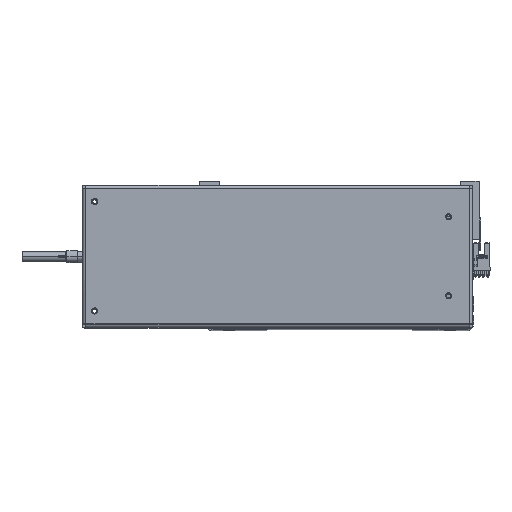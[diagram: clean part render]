
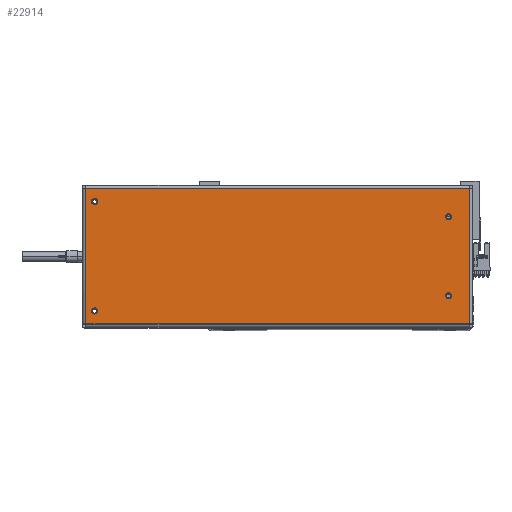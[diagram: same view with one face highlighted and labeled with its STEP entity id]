
A CAD part, top view. The second image highlights one B-rep face of the part: STEP entity #22914.
In plain terms, the highlighted planar face has unit normal (0, 0, 1).
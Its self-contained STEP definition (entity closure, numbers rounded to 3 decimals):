
#1373 = ORIENTED_EDGE ( 'NONE', *, *, #28267, .F. ) ;
#1902 = DIRECTION ( 'NONE',  ( 1., 0., 0. ) ) ;
#2242 = LINE ( 'NONE', #7822, #12563 ) ;
#2607 = FACE_BOUND ( 'NONE', #3863, .T. ) ;
#2660 = EDGE_LOOP ( 'NONE', ( #34235, #8045 ) ) ;
#2981 = ORIENTED_EDGE ( 'NONE', *, *, #25354, .F. ) ;
#3043 = VERTEX_POINT ( 'NONE', #9109 ) ;
#3078 = CIRCLE ( 'NONE', #38673, 2.5 ) ;
#3636 = AXIS2_PLACEMENT_3D ( 'NONE', #31955, #19573, #1902 ) ;
#3863 = EDGE_LOOP ( 'NONE', ( #14085, #23979 ) ) ;
#4302 = ORIENTED_EDGE ( 'NONE', *, *, #28068, .F. ) ;
#4529 = EDGE_CURVE ( 'NONE', #24311, #3043, #5926, .T. ) ;
#5097 = CARTESIAN_POINT ( 'NONE',  ( -143., -32.5, 0. ) ) ;
#5535 = DIRECTION ( 'NONE',  ( 1., 0., 0. ) ) ;
#5684 = AXIS2_PLACEMENT_3D ( 'NONE', #24213, #27662, #21028 ) ;
#5872 = CIRCLE ( 'NONE', #19780, 2.5 ) ;
#5926 = CIRCLE ( 'NONE', #26005, 2.5 ) ;
#5932 = VERTEX_POINT ( 'NONE', #5097 ) ;
#6339 = LINE ( 'NONE', #15346, #29470 ) ;
#6429 = DIRECTION ( 'NONE',  ( 0., 1., 0. ) ) ;
#6623 = VECTOR ( 'NONE', #11112, 1000. ) ;
#6828 = PLANE ( 'NONE',  #25479 ) ;
#7012 = EDGE_LOOP ( 'NONE', ( #18065, #13551, #30954, #23120 ) ) ;
#7822 = CARTESIAN_POINT ( 'NONE',  ( 157.7, 55.6, 0. ) ) ;
#8045 = ORIENTED_EDGE ( 'NONE', *, *, #14441, .F. ) ;
#8047 = DIRECTION ( 'NONE',  ( 0., 0., 1. ) ) ;
#8275 = CARTESIAN_POINT ( 'NONE',  ( -138., 32.5, 0. ) ) ;
#8764 = CARTESIAN_POINT ( 'NONE',  ( -140.5, 32.5, 0. ) ) ;
#8821 = AXIS2_PLACEMENT_3D ( 'NONE', #11306, #14605, #5535 ) ;
#9100 = VERTEX_POINT ( 'NONE', #13014 ) ;
#9109 = CARTESIAN_POINT ( 'NONE',  ( -143., 32.5, 0. ) ) ;
#9694 = ORIENTED_EDGE ( 'NONE', *, *, #12066, .F. ) ;
#10248 = CARTESIAN_POINT ( 'NONE',  ( -157.6, -55.6, 0. ) ) ;
#11112 = DIRECTION ( 'NONE',  ( 1., 0., 0. ) ) ;
#11306 = CARTESIAN_POINT ( 'NONE',  ( 150.5, -45., 0. ) ) ;
#11875 = EDGE_CURVE ( 'NONE', #35892, #23290, #14623, .T. ) ;
#12066 = EDGE_CURVE ( 'NONE', #9100, #37376, #30705, .T. ) ;
#12245 = CARTESIAN_POINT ( 'NONE',  ( 150.5, 45., 0. ) ) ;
#12553 = CARTESIAN_POINT ( 'NONE',  ( -157.6, 55.6, 0. ) ) ;
#12563 = VECTOR ( 'NONE', #13888, 1000. ) ;
#12870 = DIRECTION ( 'NONE',  ( 0., 0., -1. ) ) ;
#13014 = CARTESIAN_POINT ( 'NONE',  ( 153., 45., 0. ) ) ;
#13286 = DIRECTION ( 'NONE',  ( 0., 0., 1. ) ) ;
#13551 = ORIENTED_EDGE ( 'NONE', *, *, #11875, .T. ) ;
#13888 = DIRECTION ( 'NONE',  ( -1., 0., 0. ) ) ;
#14085 = ORIENTED_EDGE ( 'NONE', *, *, #4529, .F. ) ;
#14441 = EDGE_CURVE ( 'NONE', #20344, #25995, #33867, .T. ) ;
#14605 = DIRECTION ( 'NONE',  ( 0., 0., 1. ) ) ;
#14623 = LINE ( 'NONE', #29242, #6623 ) ;
#15346 = CARTESIAN_POINT ( 'NONE',  ( 157.6, -55.6, 0. ) ) ;
#16188 = CARTESIAN_POINT ( 'NONE',  ( -140.5, -32.5, 0. ) ) ;
#16278 = CARTESIAN_POINT ( 'NONE',  ( 150.5, -45., 0. ) ) ;
#16902 = CARTESIAN_POINT ( 'NONE',  ( -140.5, -32.5, 0. ) ) ;
#16977 = CARTESIAN_POINT ( 'NONE',  ( 148., 45., 0. ) ) ;
#17323 = EDGE_CURVE ( 'NONE', #23290, #23421, #6339, .T. ) ;
#17497 = DIRECTION ( 'NONE',  ( 1., 0., 0. ) ) ;
#17590 = CARTESIAN_POINT ( 'NONE',  ( 157.6, 55.6, 0. ) ) ;
#18065 = ORIENTED_EDGE ( 'NONE', *, *, #31267, .T. ) ;
#18352 = CIRCLE ( 'NONE', #31553, 2.5 ) ;
#18861 = CARTESIAN_POINT ( 'NONE',  ( 148., -45., 0. ) ) ;
#19153 = AXIS2_PLACEMENT_3D ( 'NONE', #16278, #30547, #21733 ) ;
#19573 = DIRECTION ( 'NONE',  ( 0., 0., 1. ) ) ;
#19601 = FACE_BOUND ( 'NONE', #36286, .T. ) ;
#19780 = AXIS2_PLACEMENT_3D ( 'NONE', #12245, #33523, #24719 ) ;
#20344 = VERTEX_POINT ( 'NONE', #18861 ) ;
#20709 = DIRECTION ( 'NONE',  ( 0., 0., 1. ) ) ;
#21028 = DIRECTION ( 'NONE',  ( 1., 0., 0. ) ) ;
#21513 = CARTESIAN_POINT ( 'NONE',  ( -157.6, 55.6, 0. ) ) ;
#21733 = DIRECTION ( 'NONE',  ( 1., 0., 0. ) ) ;
#22027 = CARTESIAN_POINT ( 'NONE',  ( 157.7, 58.5, 0. ) ) ;
#22096 = EDGE_CURVE ( 'NONE', #23421, #24575, #2242, .T. ) ;
#22494 = CIRCLE ( 'NONE', #8821, 2.5 ) ;
#22914 = ADVANCED_FACE ( 'NONE', ( #19601, #2607, #26229, #32792, #24823 ), #6828, .F. ) ;
#23120 = ORIENTED_EDGE ( 'NONE', *, *, #22096, .T. ) ;
#23290 = VERTEX_POINT ( 'NONE', #32779 ) ;
#23421 = VERTEX_POINT ( 'NONE', #17590 ) ;
#23748 = LINE ( 'NONE', #12553, #27037 ) ;
#23979 = ORIENTED_EDGE ( 'NONE', *, *, #36832, .F. ) ;
#24213 = CARTESIAN_POINT ( 'NONE',  ( 150.5, 45., 0. ) ) ;
#24311 = VERTEX_POINT ( 'NONE', #8275 ) ;
#24575 = VERTEX_POINT ( 'NONE', #21513 ) ;
#24719 = DIRECTION ( 'NONE',  ( 1., 0., 0. ) ) ;
#24823 = FACE_OUTER_BOUND ( 'NONE', #7012, .T. ) ;
#25354 = EDGE_CURVE ( 'NONE', #5932, #36220, #18352, .T. ) ;
#25479 = AXIS2_PLACEMENT_3D ( 'NONE', #22027, #12870, #34016 ) ;
#25497 = DIRECTION ( 'NONE',  ( 1., 0., 0. ) ) ;
#25995 = VERTEX_POINT ( 'NONE', #35397 ) ;
#26005 = AXIS2_PLACEMENT_3D ( 'NONE', #8764, #20709, #17497 ) ;
#26229 = FACE_BOUND ( 'NONE', #2660, .T. ) ;
#27037 = VECTOR ( 'NONE', #27929, 1000. ) ;
#27662 = DIRECTION ( 'NONE',  ( 0., 0., 1. ) ) ;
#27929 = DIRECTION ( 'NONE',  ( 0., -1., 0. ) ) ;
#28068 = EDGE_CURVE ( 'NONE', #36220, #5932, #3078, .T. ) ;
#28267 = EDGE_CURVE ( 'NONE', #37376, #9100, #5872, .T. ) ;
#28564 = CIRCLE ( 'NONE', #3636, 2.5 ) ;
#29221 = DIRECTION ( 'NONE',  ( 1., 0., 0. ) ) ;
#29242 = CARTESIAN_POINT ( 'NONE',  ( -157.7, -55.6, 0. ) ) ;
#29470 = VECTOR ( 'NONE', #6429, 1000. ) ;
#30044 = CARTESIAN_POINT ( 'NONE',  ( -138., -32.5, 0. ) ) ;
#30547 = DIRECTION ( 'NONE',  ( 0., 0., 1. ) ) ;
#30705 = CIRCLE ( 'NONE', #5684, 2.5 ) ;
#30954 = ORIENTED_EDGE ( 'NONE', *, *, #17323, .T. ) ;
#31267 = EDGE_CURVE ( 'NONE', #24575, #35892, #23748, .T. ) ;
#31553 = AXIS2_PLACEMENT_3D ( 'NONE', #16188, #13286, #25497 ) ;
#31955 = CARTESIAN_POINT ( 'NONE',  ( -140.5, 32.5, 0. ) ) ;
#32779 = CARTESIAN_POINT ( 'NONE',  ( 157.6, -55.6, 0. ) ) ;
#32792 = FACE_BOUND ( 'NONE', #36592, .T. ) ;
#33523 = DIRECTION ( 'NONE',  ( 0., 0., 1. ) ) ;
#33867 = CIRCLE ( 'NONE', #19153, 2.5 ) ;
#34016 = DIRECTION ( 'NONE',  ( -1., 0., 0. ) ) ;
#34235 = ORIENTED_EDGE ( 'NONE', *, *, #34771, .F. ) ;
#34771 = EDGE_CURVE ( 'NONE', #25995, #20344, #22494, .T. ) ;
#35397 = CARTESIAN_POINT ( 'NONE',  ( 153., -45., 0. ) ) ;
#35892 = VERTEX_POINT ( 'NONE', #10248 ) ;
#36220 = VERTEX_POINT ( 'NONE', #30044 ) ;
#36286 = EDGE_LOOP ( 'NONE', ( #4302, #2981 ) ) ;
#36592 = EDGE_LOOP ( 'NONE', ( #9694, #1373 ) ) ;
#36832 = EDGE_CURVE ( 'NONE', #3043, #24311, #28564, .T. ) ;
#37376 = VERTEX_POINT ( 'NONE', #16977 ) ;
#38673 = AXIS2_PLACEMENT_3D ( 'NONE', #16902, #8047, #29221 ) ;
